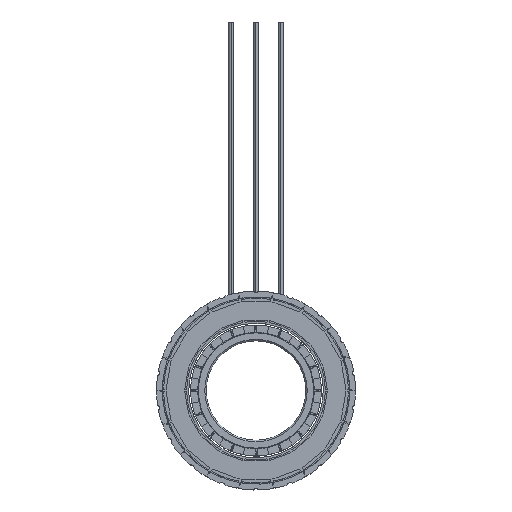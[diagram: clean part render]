
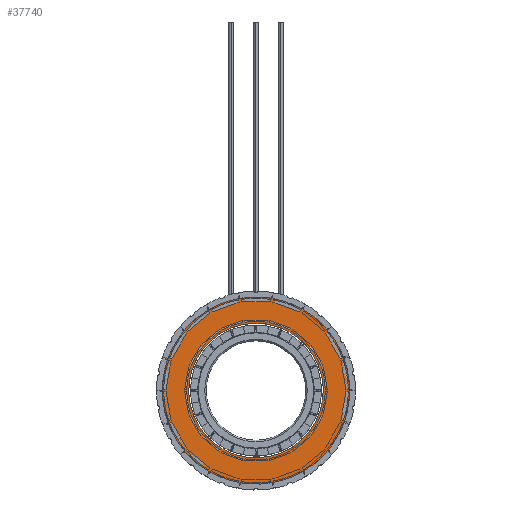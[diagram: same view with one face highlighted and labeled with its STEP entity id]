
A CAD part, top view. The second image highlights one B-rep face of the part: STEP entity #37740.
In plain terms, the highlighted planar face has unit normal (0, 0, 1).
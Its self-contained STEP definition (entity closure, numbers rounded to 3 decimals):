
#197 = DIRECTION ( 'NONE',  ( 0., 0., 1. ) ) ;
#2471 = DIRECTION ( 'NONE',  ( 0., 0., 1. ) ) ;
#2834 = EDGE_LOOP ( 'NONE', ( #31900, #39802 ) ) ;
#3496 = DIRECTION ( 'NONE',  ( 0., 0., 1. ) ) ;
#3811 = DIRECTION ( 'NONE',  ( 0., 0., 1. ) ) ;
#5098 = AXIS2_PLACEMENT_3D ( 'NONE', #18761, #197, #33101 ) ;
#8560 = AXIS2_PLACEMENT_3D ( 'NONE', #21437, #3811, #21911 ) ;
#9179 = EDGE_CURVE ( 'NONE', #46102, #20322, #14865, .T. ) ;
#10081 = CARTESIAN_POINT ( 'NONE',  ( 0., 0., 0. ) ) ;
#10438 = CIRCLE ( 'NONE', #31458, 23. ) ;
#14709 = CARTESIAN_POINT ( 'NONE',  ( -23., 0., 0. ) ) ;
#14865 = CIRCLE ( 'NONE', #5098, 32. ) ;
#15078 = CARTESIAN_POINT ( 'NONE',  ( 32., 0., 0. ) ) ;
#16563 = DIRECTION ( 'NONE',  ( 1., 0., 0. ) ) ;
#17082 = AXIS2_PLACEMENT_3D ( 'NONE', #23841, #41940, #31338 ) ;
#18687 = AXIS2_PLACEMENT_3D ( 'NONE', #10081, #3496, #43006 ) ;
#18761 = CARTESIAN_POINT ( 'NONE',  ( 0., 0., 0. ) ) ;
#20322 = VERTEX_POINT ( 'NONE', #46006 ) ;
#21437 = CARTESIAN_POINT ( 'NONE',  ( 0., 0., 0. ) ) ;
#21911 = DIRECTION ( 'NONE',  ( 1., 0., 0. ) ) ;
#22432 = ORIENTED_EDGE ( 'NONE', *, *, #34633, .F. ) ;
#22483 = VERTEX_POINT ( 'NONE', #40291 ) ;
#22668 = EDGE_LOOP ( 'NONE', ( #22432, #37898 ) ) ;
#23841 = CARTESIAN_POINT ( 'NONE',  ( 0., 0., 0. ) ) ;
#25083 = FACE_OUTER_BOUND ( 'NONE', #2834, .T. ) ;
#30341 = EDGE_CURVE ( 'NONE', #20322, #46102, #37803, .T. ) ;
#30899 = CARTESIAN_POINT ( 'NONE',  ( 0., 0., 0. ) ) ;
#31338 = DIRECTION ( 'NONE',  ( 1., 0., 0. ) ) ;
#31458 = AXIS2_PLACEMENT_3D ( 'NONE', #30899, #2471, #16563 ) ;
#31900 = ORIENTED_EDGE ( 'NONE', *, *, #9179, .T. ) ;
#33101 = DIRECTION ( 'NONE',  ( 1., 0., 0. ) ) ;
#34633 = EDGE_CURVE ( 'NONE', #22483, #41749, #36619, .T. ) ;
#36619 = CIRCLE ( 'NONE', #17082, 23. ) ;
#37740 = ADVANCED_FACE ( 'NONE', ( #46316, #25083 ), #39248, .T. ) ;
#37803 = CIRCLE ( 'NONE', #8560, 32. ) ;
#37898 = ORIENTED_EDGE ( 'NONE', *, *, #45005, .F. ) ;
#39248 = PLANE ( 'NONE',  #18687 ) ;
#39802 = ORIENTED_EDGE ( 'NONE', *, *, #30341, .T. ) ;
#40291 = CARTESIAN_POINT ( 'NONE',  ( 23., 0., 0. ) ) ;
#41749 = VERTEX_POINT ( 'NONE', #14709 ) ;
#41940 = DIRECTION ( 'NONE',  ( 0., 0., 1. ) ) ;
#43006 = DIRECTION ( 'NONE',  ( 1., 0., 0. ) ) ;
#45005 = EDGE_CURVE ( 'NONE', #41749, #22483, #10438, .T. ) ;
#46006 = CARTESIAN_POINT ( 'NONE',  ( -32., 0., 0. ) ) ;
#46102 = VERTEX_POINT ( 'NONE', #15078 ) ;
#46316 = FACE_BOUND ( 'NONE', #22668, .T. ) ;
